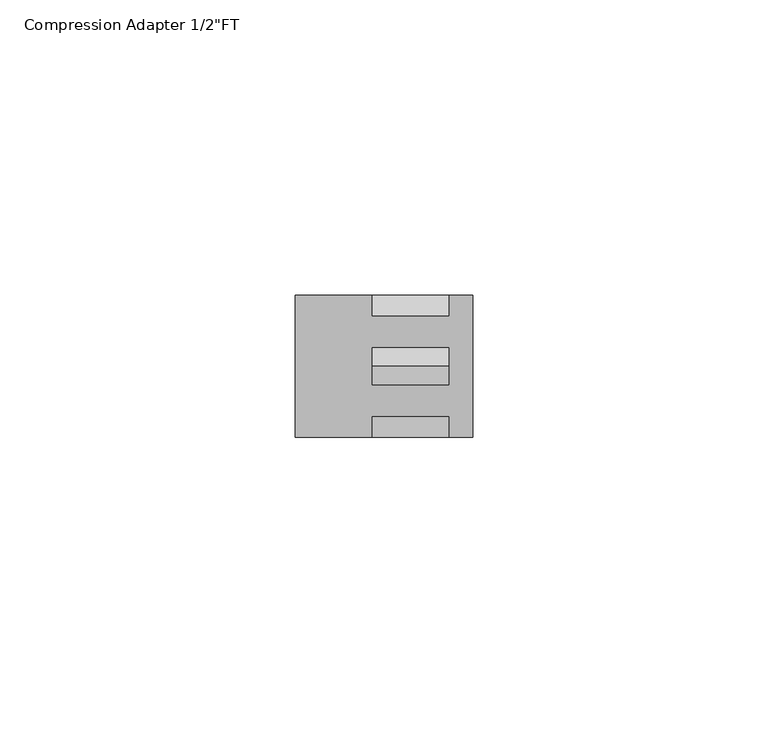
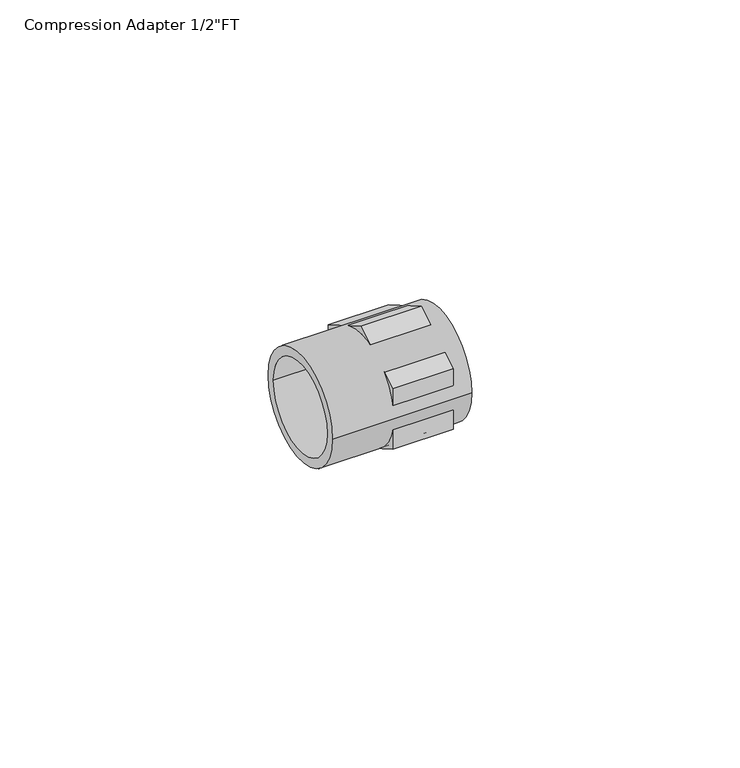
"""IFC4 building model written with IfcOpenShell, lengths in millimetres: pipe fitting geometry."""

import ifcopenshell
import ifcopenshell.guid

model = None  # the IFC model being written
_history = None  # IfcOwnerHistory: only IFC2X3 demands one
_inside = {}  # id of a spatial element -> (the spatial element, [elements in it])
_under = {}  # id of a project, library or spatial element -> (it, [spatial elements below it])
_declared = {}  # id of a project -> (the project, [libraries it declares])
_typed = {}  # id of a type object -> (the type object, [elements of that type])
_made_of = {}  # id of a material, layer set ... -> (it, [elements and type objects made of it])


def new_model(schema):
    """Start an empty IFC model of exactly this schema.

    Asked for "IFC4X3", IfcOpenShell would pick the latest addendum, in which some entities
    have other attributes; the version numbers below select the first issue.
    IFC2X3 requires an IfcOwnerHistory on every rooted entity: one is made here for all.
    """
    global model, _history
    if schema == "IFC4X3":
        model = ifcopenshell.file(schema_version=(4, 3, 0, 0))
    else:
        model = ifcopenshell.file(schema=schema)
    _inside.clear()
    _under.clear()
    _declared.clear()
    _typed.clear()
    _made_of.clear()
    _history = None
    if model.schema == "IFC2X3":
        org = make("IfcOrganization", Name="unknown")
        user = make(
            "IfcPersonAndOrganization",
            ThePerson=make("IfcPerson", FamilyName="unknown"),
            TheOrganization=org,
        )
        app = make(
            "IfcApplication",
            ApplicationDeveloper=org,
            Version="unknown",
            ApplicationFullName="unknown",
            ApplicationIdentifier="unknown",
        )
        _history = make(
            "IfcOwnerHistory",
            OwningUser=user,
            OwningApplication=app,
            ChangeAction="ADDED",
            CreationDate=0,
        )
    return model


def make(cls, **values):
    """One entity of the class cls with the attributes given. An attribute that is None is left unset."""
    return model.create_entity(
        cls, **{name: value for name, value in values.items() if value is not None}
    )


def rooted(cls, **values):
    """An entity with a GlobalId (a new one), such as an element, a storey or a relation."""
    return make(cls, GlobalId=ifcopenshell.guid.new(), OwnerHistory=_history, **values)


def si_unit(unit_type, name, prefix=None):
    """IfcSIUnit, for example si_unit("LENGTHUNIT", "METRE", prefix="MILLI")."""
    return make("IfcSIUnit", UnitType=unit_type, Prefix=prefix, Name=name)


def assignment(units):
    """IfcUnitAssignment: the units of a project."""
    return None if units is None else make("IfcUnitAssignment", Units=units)


def point(xyz):
    """IfcCartesianPoint."""
    return None if xyz is None else make("IfcCartesianPoint", Coordinates=xyz)


def direction(xyz):
    """IfcDirection."""
    return None if xyz is None else make("IfcDirection", DirectionRatios=xyz)


def frame(location, z_axis=None, x_axis=None):
    """IfcAxis2Placement3D, a coordinate frame: its origin and axes. An axis left out is left unset."""
    return make(
        "IfcAxis2Placement3D",
        Location=point(location),
        Axis=direction(z_axis),
        RefDirection=direction(x_axis),
    )


def frame_2d(location, x_axis=None):
    """IfcAxis2Placement2D, a coordinate frame in the plane: its origin and x axis."""
    return make(
        "IfcAxis2Placement2D", Location=point(location), RefDirection=direction(x_axis)
    )


def origin():
    """The frame at (0, 0, 0) with its axes left unset."""
    return frame((0.0, 0.0, 0.0))


def origin_2d():
    """The frame at (0, 0) in the plane with its x axis left unset."""
    return frame_2d((0.0, 0.0))


def place(relative_to, where):
    """IfcLocalPlacement: puts the frame where relative to a parent placement (None: the world)."""
    return make(
        "IfcLocalPlacement", PlacementRelTo=relative_to, RelativePlacement=where
    )


def context(
    kind, dimensions, precision=None, world=None, true_north=None, identifier=None
):
    """IfcGeometricRepresentationContext, for example the 3D "Model" context."""
    return make(
        "IfcGeometricRepresentationContext",
        ContextIdentifier=identifier,
        ContextType=kind,
        CoordinateSpaceDimension=dimensions,
        Precision=precision,
        WorldCoordinateSystem=world,
        TrueNorth=true_north,
    )


def project(units=None, contexts=None):
    """IfcProject with its units and contexts."""
    return rooted(
        "IfcProject",
        Name="project",
        RepresentationContexts=contexts,
        UnitsInContext=assignment(units),
    )


def spatial(cls, under=None, at=None, **own):
    """A site, building, storey or space (cls), placed at a placement, below another one or the project."""
    s = rooted(cls, ObjectPlacement=at, **own)
    if under is not None:
        _under.setdefault(under.id(), (under, []))[1].append(s)
    return s


def polyline(points):
    """IfcPolyline through the points."""
    return make("IfcPolyline", Points=[point(p) for p in points])


def circle_curve(where, radius):
    """IfcCircle in the frame where."""
    return make("IfcCircle", Position=where, Radius=radius)


def trimmed(basis, trim1, trim2, sense, master):
    """IfcTrimmedCurve: the piece of a basis curve between two trims."""
    return make(
        "IfcTrimmedCurve",
        BasisCurve=basis,
        Trim1=trim1,
        Trim2=trim2,
        SenseAgreement=sense,
        MasterRepresentation=master,
    )


def segment(curve, same_sense, transition):
    """IfcCompositeCurveSegment."""
    return make(
        "IfcCompositeCurveSegment",
        Transition=transition,
        SameSense=same_sense,
        ParentCurve=curve,
    )


def composite_curve(segments, self_intersect=None):
    """IfcCompositeCurve: segments joined end to end."""
    return make("IfcCompositeCurve", Segments=segments, SelfIntersect=self_intersect)


def outline(outer, holes=None, kind="AREA"):
    """IfcArbitraryClosedProfileDef: a profile drawn as a closed curve; with holes, ...WithVoids."""
    if holes is None:
        return make("IfcArbitraryClosedProfileDef", ProfileType=kind, OuterCurve=outer)
    return make(
        "IfcArbitraryProfileDefWithVoids",
        ProfileType=kind,
        OuterCurve=outer,
        InnerCurves=holes,
    )


def extrude(swept, where, along, depth):
    """IfcExtrudedAreaSolid: the profile swept, set in the frame where, extruded along a direction by depth."""
    return make(
        "IfcExtrudedAreaSolid",
        SweptArea=swept,
        Position=where,
        ExtrudedDirection=direction(along),
        Depth=depth,
    )


def shape(context_of_items, identifier, shape_type, items):
    """IfcShapeRepresentation: the items that make up one representation, for example the "Body"."""
    return make(
        "IfcShapeRepresentation",
        ContextOfItems=context_of_items,
        RepresentationIdentifier=identifier,
        RepresentationType=shape_type,
        Items=items,
    )


def source(mapping_origin, context_of_items, identifier, shape_type, items):
    """IfcRepresentationMap: a shape defined once, which mapped items show again and again."""
    return make(
        "IfcRepresentationMap",
        MappingOrigin=mapping_origin,
        MappedRepresentation=shape(context_of_items, identifier, shape_type, items),
    )


def transform(
    local_origin,
    x_axis=None,
    y_axis=None,
    z_axis=None,
    scale=None,
    scale2=None,
    scale3=None,
    uniform=True,
):
    """IfcCartesianTransformationOperator3D, or its non-uniform kind. x_axis, y_axis, z_axis: its Axis1, 2, 3."""
    if uniform:
        return make(
            "IfcCartesianTransformationOperator3D",
            Axis1=direction(x_axis),
            Axis2=direction(y_axis),
            LocalOrigin=point(local_origin),
            Scale=scale,
            Axis3=direction(z_axis),
        )
    return make(
        "IfcCartesianTransformationOperator3DnonUniform",
        Axis1=direction(x_axis),
        Axis2=direction(y_axis),
        LocalOrigin=point(local_origin),
        Scale=scale,
        Axis3=direction(z_axis),
        Scale2=scale2,
        Scale3=scale3,
    )


def mapped(mapping_source, mapping_target):
    """IfcMappedItem: shows the shape of a source again, moved by a transform."""
    return make(
        "IfcMappedItem", MappingSource=mapping_source, MappingTarget=mapping_target
    )


def made_of(thing, what):
    """Note that an element or type object is made of a material, layer set ...; save() writes the relation."""
    if what is not None:
        _made_of.setdefault(what.id(), (what, []))[1].append(thing)
    return thing


def element(
    cls,
    number,
    at=None,
    inside=None,
    cuts=None,
    type_object=None,
    material=None,
    context=None,
    identifier="Body",
    shape_type=None,
    held_by="IfcProductDefinitionShape",
    body=None,
    shapes=None,
    **own,
):
    """One element of the class cls, such as IfcWall. Its Tag is "e" and its number.

    at: its placement. inside: the storey or other place that contains it. cuts: it is an
    opening in that element (IfcRelVoidsElement). A single representation is given by context,
    identifier, shape_type and body (its items); several are given by shapes. held_by: the class
    of the entity that holds the representations. save() writes the other relations.
    """
    e = rooted(cls, Tag="e%d" % number, ObjectPlacement=at, **own)
    if body is not None:
        shapes = [shape(context, identifier, shape_type, body)]
    if shapes is not None:
        e.Representation = make(held_by, Representations=shapes)
    if inside is not None:
        _inside.setdefault(inside.id(), (inside, []))[1].append(e)
    if cuts is not None:
        rooted(
            "IfcRelVoidsElement", RelatingBuildingElement=cuts, RelatedOpeningElement=e
        )
    if type_object is not None:
        _typed.setdefault(type_object.id(), (type_object, []))[1].append(e)
    return made_of(e, material)


def aggregate(whole, parts):
    """IfcRelAggregates: a whole, such as a stair, and the parts it consists of."""
    return rooted("IfcRelAggregates", RelatingObject=whole, RelatedObjects=parts)


def save(model, path):
    """Write the relations noted so far, then the file.

    IfcRelAggregates (storeys below a building ...), IfcRelContainedInSpatialStructure (elements
    in a storey), IfcRelDefinesByType, IfcRelAssociatesMaterial and IfcRelDeclares: one each for
    every whole, place, type object, material and project.
    """
    for whole, parts in _under.values():
        aggregate(whole, parts)
    for where, things in _inside.values():
        rooted(
            "IfcRelContainedInSpatialStructure",
            RelatedElements=things,
            RelatingStructure=where,
        )
    for kind, things in _typed.values():
        rooted("IfcRelDefinesByType", RelatedObjects=things, RelatingType=kind)
    for what, things in _made_of.values():
        rooted("IfcRelAssociatesMaterial", RelatedObjects=things, RelatingMaterial=what)
    for by, libraries in _declared.values():
        rooted("IfcRelDeclares", RelatingContext=by, RelatedDefinitions=libraries)
    model.write(path)


def pipe_fitting_230b2432(model_context):
    return source(origin(), model_context, "Body", "SweptSolid", [
        extrude(outline(composite_curve([segment(trimmed(circle_curve(origin_2d(), 12.0), [point((-12.0, 0.0))], [point((12.0, 0.0))], False, "CARTESIAN"), True, "CONTINUOUS"), segment(trimmed(circle_curve(origin_2d(), 12.0), [point((12.0, 0.0))], [point((-12.0, 0.0))], False, "CARTESIAN"), True, "CONTINUOUS")], self_intersect=False), holes=[composite_curve([segment(trimmed(circle_curve(origin_2d(), 10.0), [point((-10.0, 0.0))], [point((10.0, 0.0))], True, "CARTESIAN"), True, "CONTINUOUS"), segment(trimmed(circle_curve(origin_2d(), 10.0), [point((10.0, 0.0))], [point((-10.0, 0.0))], True, "CARTESIAN"), True, "CONTINUOUS")], self_intersect=False)]), frame((0.0, 0.0, 0.0), z_axis=(1.0, 0.0, 0.0), x_axis=(0.0, 1.0, 0.0)), (0.0, 0.0, 1.0), 30.0),
        extrude(outline(polyline([(0.0, -13.8564065), (-12.0, -6.9282032), (-12.0, 6.9282032), (0.0, 13.8564065), (12.0, 6.9282032), (12.0, -6.9282032), (0.0, -13.8564065)]), holes=[composite_curve([segment(trimmed(circle_curve(origin_2d(), 10.0), [point((-10.0, 0.0))], [point((10.0, 0.0))], True, "CARTESIAN"), True, "CONTINUOUS"), segment(trimmed(circle_curve(origin_2d(), 10.0), [point((10.0, 0.0))], [point((-10.0, 0.0))], True, "CARTESIAN"), True, "CONTINUOUS")], self_intersect=False)]), frame((13.0, 0.0, 0.0), z_axis=(1.0, 0.0, 0.0), x_axis=(0.0, 1.0, 0.0)), (0.0, 0.0, 1.0), 13.0),
    ])


if __name__ == "__main__":
    model = new_model("IFC4")
    model_context = context("Model", 3, world=origin())
    ifc_project = project(units=[si_unit("LENGTHUNIT", "METRE", prefix="MILLI")], contexts=[model_context])
    site = spatial("IfcSite", under=ifc_project)
    building = spatial("IfcBuilding", under=site)
    placement = place(None, origin())
    pipe_fitting_shape = pipe_fitting_230b2432(model_context)
    element("IfcPipeFitting", 1, ObjectType="Compression Adapter 1/2\"FT : Superpipe Compression Adapter", at=placement, inside=building, context=model_context, shape_type="MappedRepresentation", body=[
        mapped(pipe_fitting_shape, transform((0.0, 0.0, 0.0), x_axis=(1.0, 0.0, 0.0), y_axis=(0.0, 1.0, 0.0), z_axis=(0.0, 0.0, 1.0))),
    ])
    save(model, "model.ifc")
